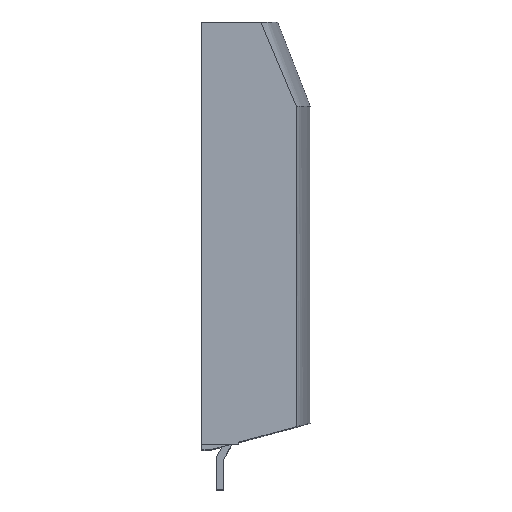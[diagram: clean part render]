
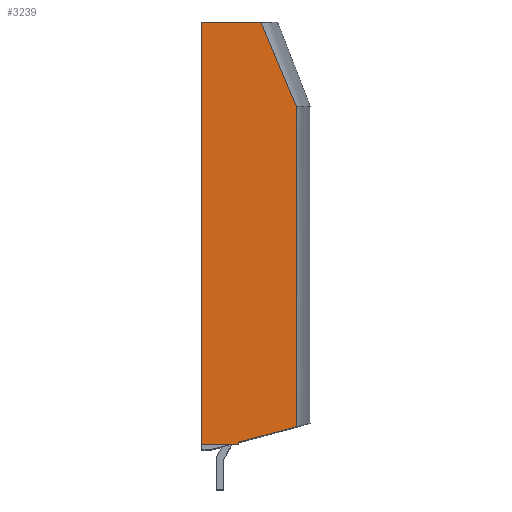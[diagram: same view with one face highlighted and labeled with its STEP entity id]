
A CAD part, top view. The second image highlights one B-rep face of the part: STEP entity #3239.
In plain terms, the highlighted planar face has unit normal (0, 0, 1).
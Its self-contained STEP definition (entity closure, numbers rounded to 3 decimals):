
#54 = EDGE_LOOP ( 'NONE', ( #2831, #2832, #2833, #2834, #2835, #2836, #2837 ) ) ;
#166 = B_SPLINE_CURVE_WITH_KNOTS ( 'NONE', 3,
 ( #1320, #1316, #1327, #1328 ),
 .UNSPECIFIED., .F., .F.,
 ( 4, 4 ),
 ( 0., 1. ),
 .UNSPECIFIED. ) ;
#210 = VECTOR ( 'NONE', #1534, 1000. ) ;
#307 = AXIS2_PLACEMENT_3D ( 'NONE', #681, #692, #693 ) ;
#681 = CARTESIAN_POINT ( 'NONE',  ( 0., 137., 60. ) ) ;
#689 = FACE_OUTER_BOUND ( 'NONE', #54, .T. ) ;
#690 = PLANE ( 'NONE',  #307 ) ;
#692 = DIRECTION ( 'NONE',  ( 0., 0., -1. ) ) ;
#693 = DIRECTION ( 'NONE',  ( 0., -1., 0. ) ) ;
#1036 = VERTEX_POINT ( 'NONE', #2075 ) ;
#1048 = VERTEX_POINT ( 'NONE', #2087 ) ;
#1094 = VERTEX_POINT ( 'NONE', #3386 ) ;
#1111 = VERTEX_POINT ( 'NONE', #3403 ) ;
#1126 = VERTEX_POINT ( 'NONE', #3418 ) ;
#1133 = VERTEX_POINT ( 'NONE', #3425 ) ;
#1145 = VERTEX_POINT ( 'NONE', #3437 ) ;
#1180 = LINE ( 'NONE', #1181, #3532 ) ;
#1181 = CARTESIAN_POINT ( 'NONE',  ( 0., 137., 60. ) ) ;
#1182 = DIRECTION ( 'NONE',  ( 1., 0., 0. ) ) ;
#1286 = LINE ( 'NONE', #1319, #3599 ) ;
#1316 = CARTESIAN_POINT ( 'NONE',  ( 28.067, 117.993, 60. ) ) ;
#1319 = CARTESIAN_POINT ( 'NONE',  ( 0., -6.039, 60. ) ) ;
#1320 = CARTESIAN_POINT ( 'NONE',  ( 32.078, 108.49, 60. ) ) ;
#1321 = DIRECTION ( 'NONE',  ( 1., 0., 0. ) ) ;
#1324 = LINE ( 'NONE', #1325, #3522 ) ;
#1325 = CARTESIAN_POINT ( 'NONE',  ( 32.078, -64.08, 60. ) ) ;
#1326 = DIRECTION ( 'NONE',  ( 0., 1., 0. ) ) ;
#1327 = CARTESIAN_POINT ( 'NONE',  ( 24.057, 127.497, 60. ) ) ;
#1328 = CARTESIAN_POINT ( 'NONE',  ( 20.046, 137., 60. ) ) ;
#1329 = LINE ( 'NONE', #1330, #3517 ) ;
#1330 = CARTESIAN_POINT ( 'NONE',  ( 0., 137., 60. ) ) ;
#1331 = DIRECTION ( 'NONE',  ( 0., 1., 0. ) ) ;
#1332 = LINE ( 'NONE', #1333, #3518 ) ;
#1333 = CARTESIAN_POINT ( 'NONE',  ( 12.5, -5.302, 60. ) ) ;
#1334 = DIRECTION ( 'NONE',  ( -0.966, -0.259, 0. ) ) ;
#1532 = LINE ( 'NONE', #1533, #210 ) ;
#1533 = CARTESIAN_POINT ( 'NONE',  ( 12.5, -9.5, 60. ) ) ;
#1534 = DIRECTION ( 'NONE',  ( 0., -1., 0. ) ) ;
#2075 = CARTESIAN_POINT ( 'NONE',  ( 12.5, -6.039, 60. ) ) ;
#2087 = CARTESIAN_POINT ( 'NONE',  ( 12.5, -5.302, 60. ) ) ;
#2831 = ORIENTED_EDGE ( 'NONE', *, *, #3062, .T. ) ;
#2832 = ORIENTED_EDGE ( 'NONE', *, *, #3063, .T. ) ;
#2833 = ORIENTED_EDGE ( 'NONE', *, *, #3038, .F. ) ;
#2834 = ORIENTED_EDGE ( 'NONE', *, *, #3064, .F. ) ;
#2835 = ORIENTED_EDGE ( 'NONE', *, *, #3060, .T. ) ;
#2836 = ORIENTED_EDGE ( 'NONE', *, *, #3129, .F. ) ;
#2837 = ORIENTED_EDGE ( 'NONE', *, *, #3065, .F. ) ;
#3038 = EDGE_CURVE ( 'NONE', #1126, #1145, #1180, .T. ) ;
#3060 = EDGE_CURVE ( 'NONE', #1133, #1036, #1286, .T. ) ;
#3062 = EDGE_CURVE ( 'NONE', #1094, #1111, #1324, .T. ) ;
#3063 = EDGE_CURVE ( 'NONE', #1111, #1145, #166, .T. ) ;
#3064 = EDGE_CURVE ( 'NONE', #1133, #1126, #1329, .T. ) ;
#3065 = EDGE_CURVE ( 'NONE', #1094, #1048, #1332, .T. ) ;
#3129 = EDGE_CURVE ( 'NONE', #1048, #1036, #1532, .T. ) ;
#3239 = ADVANCED_FACE ( 'NONE', ( #689 ), #690, .F. ) ;
#3386 = CARTESIAN_POINT ( 'NONE',  ( 32.078, -0.056, 60. ) ) ;
#3403 = CARTESIAN_POINT ( 'NONE',  ( 32.078, 108.49, 60. ) ) ;
#3418 = CARTESIAN_POINT ( 'NONE',  ( 0., 137., 60. ) ) ;
#3425 = CARTESIAN_POINT ( 'NONE',  ( 0., -6.039, 60. ) ) ;
#3437 = CARTESIAN_POINT ( 'NONE',  ( 20.046, 137., 60. ) ) ;
#3517 = VECTOR ( 'NONE', #1331, 1000. ) ;
#3518 = VECTOR ( 'NONE', #1334, 1000. ) ;
#3522 = VECTOR ( 'NONE', #1326, 1000. ) ;
#3532 = VECTOR ( 'NONE', #1182, 1000. ) ;
#3599 = VECTOR ( 'NONE', #1321, 1000. ) ;
